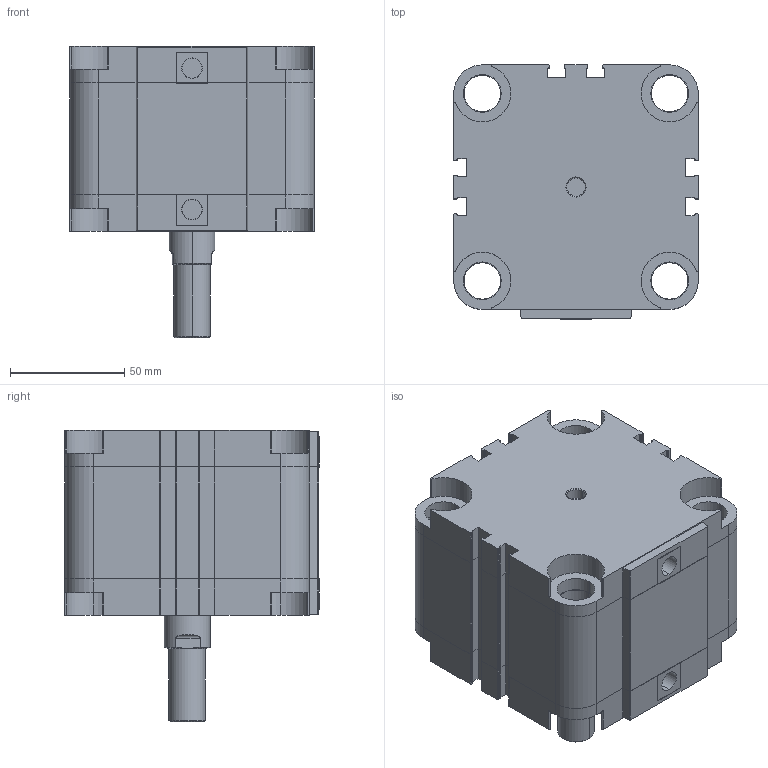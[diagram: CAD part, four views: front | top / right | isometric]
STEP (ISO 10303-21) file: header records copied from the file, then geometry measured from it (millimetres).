
FILE_DESCRIPTION (( 'STEP AP203' ), '1' );
FILE_NAME ('ADVU80X25-S-A-CYLINDER.STEP', '2015-04-14T07:33:56', ( 'user' ), ( '' ), 'SwSTEP 2.0', 'SolidWorks 2013', '' );
FILE_SCHEMA (( 'CONFIG_CONTROL_DESIGN' ));
Length unit declared in the file: millimetre
Products named in the file (6): ADVU 80-S-A ARKA KAPAK; ADVU 80X25-S-A BORU; ADVU 80-S-A 烰 KAPAK; ADVU 80-S-A ORTA PÝSTON; ADVU 80X25-S-A M尳; ADVU80X25-S-A-CYLINDER
Assembly tree (5 placements, depth 2):
  ADVU80X25-S-A-CYLINDER
    ADVU 80-S-A ARKA KAPAK
    ADVU 80X25-S-A BORU
    ADVU 80-S-A 烰 KAPAK
    ADVU 80-S-A ORTA PÝSTON
    ADVU 80X25-S-A M尳
Bounding box: 107 x 111.2 x 127.5 mm (x, y, z)
Volume: 682414.5 mm3; surface area: 154107.8 mm2
Topology: 5 solids, 5 shells, 534 faces, 1465 edges, 964 vertices
Faces by surface type: cylinder 265, plane 245, cone 22, torus 2
Entity records: 17965 total; most frequent: CARTESIAN_POINT 3200, DIRECTION 3079, ORIENTED_EDGE 2930, EDGE_CURVE 1465, AXIS2_PLACEMENT_3D 1091, VERTEX_POINT 964, VECTOR 897, LINE 897
